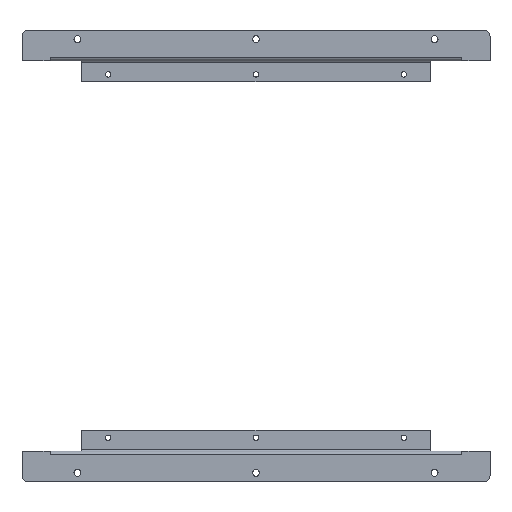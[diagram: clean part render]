
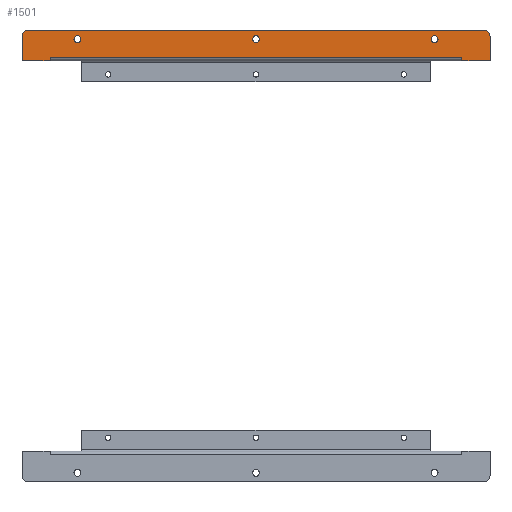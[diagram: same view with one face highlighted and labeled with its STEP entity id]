
A CAD part, top view. The second image highlights one B-rep face of the part: STEP entity #1501.
In plain terms, the highlighted planar face has unit normal (0, 0, 1).
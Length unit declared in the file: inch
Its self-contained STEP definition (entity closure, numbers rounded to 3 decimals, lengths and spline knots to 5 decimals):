
#15=CARTESIAN_POINT('',(9.485,-0.61,0.));
#16=DIRECTION('',(0.,0.,1.));
#17=DIRECTION('',(0.,-1.,0.));
#18=AXIS2_PLACEMENT_3D('',#15,#16,#17);
#24=DIRECTION('',(1.,0.,0.));
#25=VECTOR('',#24,1.13);
#26=CARTESIAN_POINT('',(8.355,-0.625,0.));
#27=LINE('',#26,#25);
#31=CARTESIAN_POINT('',(8.355,-0.61,0.));
#32=DIRECTION('',(0.,0.,1.));
#33=DIRECTION('',(-1.,0.,0.));
#34=AXIS2_PLACEMENT_3D('',#31,#32,#33);
#39=DIRECTION('',(0.,1.,0.));
#40=VECTOR('',#39,0.13);
#41=CARTESIAN_POINT('',(8.34,-0.61,0.));
#42=LINE('',#41,#40);
#46=CARTESIAN_POINT('',(8.3325,-0.48,0.));
#47=DIRECTION('',(0.,0.,1.));
#48=DIRECTION('',(1.,0.,0.));
#49=AXIS2_PLACEMENT_3D('',#46,#47,#48);
#54=CARTESIAN_POINT('',(-8.3325,-0.48,0.));
#55=DIRECTION('',(0.,0.,1.));
#56=DIRECTION('',(1.,0.,0.));
#57=AXIS2_PLACEMENT_3D('',#54,#55,#56);
#62=DIRECTION('',(0.,1.,0.));
#63=VECTOR('',#62,0.13);
#64=CARTESIAN_POINT('',(-8.34,-0.61,0.));
#65=LINE('',#64,#63);
#69=CARTESIAN_POINT('',(-8.355,-0.61,0.));
#70=DIRECTION('',(0.,0.,1.));
#71=DIRECTION('',(0.,-1.,0.));
#72=AXIS2_PLACEMENT_3D('',#69,#70,#71);
#77=DIRECTION('',(1.,0.,0.));
#78=VECTOR('',#77,1.13);
#79=CARTESIAN_POINT('',(-9.485,-0.625,0.));
#80=LINE('',#79,#78);
#84=CARTESIAN_POINT('',(-9.485,-0.61,0.));
#85=DIRECTION('',(0.,0.,1.));
#86=DIRECTION('',(-1.,0.,0.));
#87=AXIS2_PLACEMENT_3D('',#84,#85,#86);
#92=DIRECTION('',(0.,-1.,0.));
#93=VECTOR('',#92,0.985);
#94=CARTESIAN_POINT('',(-9.5,0.375,0.));
#95=LINE('',#94,#93);
#99=CARTESIAN_POINT('',(-9.25,0.375,0.));
#100=DIRECTION('',(0.,0.,1.));
#101=DIRECTION('',(0.,1.,0.));
#102=AXIS2_PLACEMENT_3D('',#99,#100,#101);
#107=DIRECTION('',(-1.,0.,0.));
#108=VECTOR('',#107,18.5);
#109=CARTESIAN_POINT('',(9.25,0.625,0.));
#110=LINE('',#109,#108);
#114=CARTESIAN_POINT('',(9.25,0.375,0.));
#115=DIRECTION('',(0.,0.,1.));
#116=DIRECTION('',(1.,0.,0.));
#117=AXIS2_PLACEMENT_3D('',#114,#115,#116);
#122=DIRECTION('',(0.,1.,0.));
#123=VECTOR('',#122,0.985);
#124=CARTESIAN_POINT('',(9.5,-0.61,0.));
#125=LINE('',#124,#123);
#129=CARTESIAN_POINT('',(-7.25,0.25,0.));
#130=DIRECTION('',(0.,0.,1.));
#131=DIRECTION('',(-1.,0.,0.));
#132=AXIS2_PLACEMENT_3D('',#129,#130,#131);
#137=CARTESIAN_POINT('',(-7.25,0.25,0.));
#138=DIRECTION('',(0.,0.,1.));
#139=DIRECTION('',(1.,0.,0.));
#140=AXIS2_PLACEMENT_3D('',#137,#138,#139);
#145=CARTESIAN_POINT('',(7.25,0.25,0.));
#146=DIRECTION('',(0.,0.,1.));
#147=DIRECTION('',(-1.,0.,0.));
#148=AXIS2_PLACEMENT_3D('',#145,#146,#147);
#153=CARTESIAN_POINT('',(7.25,0.25,0.));
#154=DIRECTION('',(0.,0.,1.));
#155=DIRECTION('',(1.,0.,0.));
#156=AXIS2_PLACEMENT_3D('',#153,#154,#155);
#161=CARTESIAN_POINT('',(0.,0.25,0.));
#162=DIRECTION('',(0.,0.,1.));
#163=DIRECTION('',(-1.,0.,0.));
#164=AXIS2_PLACEMENT_3D('',#161,#162,#163);
#169=CARTESIAN_POINT('',(0.,0.25,0.));
#170=DIRECTION('',(0.,0.,1.));
#171=DIRECTION('',(1.,0.,0.));
#172=AXIS2_PLACEMENT_3D('',#169,#170,#171);
#452=DIRECTION('',(1.,0.,0.));
#453=VECTOR('',#452,16.65);
#454=CARTESIAN_POINT('',(-8.325,-0.48,0.));
#455=LINE('',#454,#453);
#1248=CARTESIAN_POINT('',(-8.325,-0.48,0.));
#1249=CARTESIAN_POINT('',(-8.34,-0.48,0.));
#1250=VERTEX_POINT('',#1248);
#1251=VERTEX_POINT('',#1249);
#1260=CARTESIAN_POINT('',(8.34,-0.48,0.));
#1261=CARTESIAN_POINT('',(8.325,-0.48,0.));
#1262=VERTEX_POINT('',#1260);
#1263=VERTEX_POINT('',#1261);
#1316=CARTESIAN_POINT('',(9.5,0.375,0.));
#1317=CARTESIAN_POINT('',(9.25,0.625,0.));
#1318=VERTEX_POINT('',#1316);
#1319=VERTEX_POINT('',#1317);
#1324=CARTESIAN_POINT('',(-9.25,0.625,0.));
#1325=CARTESIAN_POINT('',(-9.5,0.375,0.));
#1326=VERTEX_POINT('',#1324);
#1327=VERTEX_POINT('',#1325);
#1332=CARTESIAN_POINT('',(-7.3905,0.25,0.));
#1333=CARTESIAN_POINT('',(-7.1095,0.25,0.));
#1334=VERTEX_POINT('',#1332);
#1335=VERTEX_POINT('',#1333);
#1336=CARTESIAN_POINT('',(7.1095,0.25,0.));
#1337=CARTESIAN_POINT('',(7.3905,0.25,0.));
#1338=VERTEX_POINT('',#1336);
#1339=VERTEX_POINT('',#1337);
#1380=CARTESIAN_POINT('',(-0.1405,0.25,0.));
#1381=CARTESIAN_POINT('',(0.1405,0.25,0.));
#1382=VERTEX_POINT('',#1380);
#1383=VERTEX_POINT('',#1381);
#1396=CARTESIAN_POINT('',(9.485,-0.625,0.));
#1397=CARTESIAN_POINT('',(9.5,-0.61,0.));
#1398=VERTEX_POINT('',#1396);
#1399=VERTEX_POINT('',#1397);
#1404=CARTESIAN_POINT('',(-9.5,-0.61,0.));
#1405=CARTESIAN_POINT('',(-9.485,-0.625,0.));
#1406=VERTEX_POINT('',#1404);
#1407=VERTEX_POINT('',#1405);
#1412=CARTESIAN_POINT('',(-8.355,-0.625,0.));
#1413=CARTESIAN_POINT('',(-8.34,-0.61,0.));
#1414=VERTEX_POINT('',#1412);
#1415=VERTEX_POINT('',#1413);
#1432=CARTESIAN_POINT('',(8.34,-0.61,0.));
#1433=VERTEX_POINT('',#1432);
#1434=CARTESIAN_POINT('',(8.355,-0.625,0.));
#1435=VERTEX_POINT('',#1434);
#1444=CARTESIAN_POINT('',(0.,0.,0.));
#1445=DIRECTION('',(0.,0.,1.));
#1446=DIRECTION('',(1.,0.,0.));
#1447=AXIS2_PLACEMENT_3D('',#1444,#1445,#1446);
#1448=PLANE('',#1447);
#1450=ORIENTED_EDGE('',*,*,#1449,.F.);
#1452=ORIENTED_EDGE('',*,*,#1451,.F.);
#1454=ORIENTED_EDGE('',*,*,#1453,.F.);
#1456=ORIENTED_EDGE('',*,*,#1455,.T.);
#1458=ORIENTED_EDGE('',*,*,#1457,.T.);
#1460=ORIENTED_EDGE('',*,*,#1459,.F.);
#1462=ORIENTED_EDGE('',*,*,#1461,.T.);
#1464=ORIENTED_EDGE('',*,*,#1463,.F.);
#1466=ORIENTED_EDGE('',*,*,#1465,.F.);
#1468=ORIENTED_EDGE('',*,*,#1467,.F.);
#1470=ORIENTED_EDGE('',*,*,#1469,.F.);
#1472=ORIENTED_EDGE('',*,*,#1471,.F.);
#1474=ORIENTED_EDGE('',*,*,#1473,.F.);
#1476=ORIENTED_EDGE('',*,*,#1475,.F.);
#1478=ORIENTED_EDGE('',*,*,#1477,.F.);
#1480=ORIENTED_EDGE('',*,*,#1479,.F.);
#1481=EDGE_LOOP('',(#1450,#1452,#1454,#1456,#1458,#1460,#1462,#1464,#1466,#1468,
#1470,#1472,#1474,#1476,#1478,#1480));
#1482=FACE_OUTER_BOUND('',#1481,.F.);
#1484=ORIENTED_EDGE('',*,*,#1483,.T.);
#1486=ORIENTED_EDGE('',*,*,#1485,.T.);
#1487=EDGE_LOOP('',(#1484,#1486));
#1488=FACE_BOUND('',#1487,.F.);
#1490=ORIENTED_EDGE('',*,*,#1489,.T.);
#1492=ORIENTED_EDGE('',*,*,#1491,.T.);
#1493=EDGE_LOOP('',(#1490,#1492));
#1494=FACE_BOUND('',#1493,.F.);
#1496=ORIENTED_EDGE('',*,*,#1495,.T.);
#1498=ORIENTED_EDGE('',*,*,#1497,.T.);
#1499=EDGE_LOOP('',(#1496,#1498));
#1500=FACE_BOUND('',#1499,.F.);
#19=CIRCLE('',#18,0.015);
#35=CIRCLE('',#34,0.015);
#50=CIRCLE('',#49,0.0075);
#58=CIRCLE('',#57,0.0075);
#73=CIRCLE('',#72,0.015);
#88=CIRCLE('',#87,0.015);
#103=CIRCLE('',#102,0.25);
#118=CIRCLE('',#117,0.25);
#133=CIRCLE('',#132,0.1405);
#141=CIRCLE('',#140,0.1405);
#149=CIRCLE('',#148,0.1405);
#157=CIRCLE('',#156,0.1405);
#165=CIRCLE('',#164,0.1405);
#173=CIRCLE('',#172,0.1405);
#1449=EDGE_CURVE('',#1398,#1399,#19,.T.);
#1451=EDGE_CURVE('',#1435,#1398,#27,.T.);
#1453=EDGE_CURVE('',#1433,#1435,#35,.T.);
#1455=EDGE_CURVE('',#1433,#1262,#42,.T.);
#1457=EDGE_CURVE('',#1262,#1263,#50,.T.);
#1459=EDGE_CURVE('',#1250,#1263,#455,.T.);
#1461=EDGE_CURVE('',#1250,#1251,#58,.T.);
#1463=EDGE_CURVE('',#1415,#1251,#65,.T.);
#1465=EDGE_CURVE('',#1414,#1415,#73,.T.);
#1467=EDGE_CURVE('',#1407,#1414,#80,.T.);
#1469=EDGE_CURVE('',#1406,#1407,#88,.T.);
#1471=EDGE_CURVE('',#1327,#1406,#95,.T.);
#1473=EDGE_CURVE('',#1326,#1327,#103,.T.);
#1475=EDGE_CURVE('',#1319,#1326,#110,.T.);
#1477=EDGE_CURVE('',#1318,#1319,#118,.T.);
#1479=EDGE_CURVE('',#1399,#1318,#125,.T.);
#1483=EDGE_CURVE('',#1334,#1335,#133,.T.);
#1485=EDGE_CURVE('',#1335,#1334,#141,.T.);
#1489=EDGE_CURVE('',#1338,#1339,#149,.T.);
#1491=EDGE_CURVE('',#1339,#1338,#157,.T.);
#1495=EDGE_CURVE('',#1382,#1383,#165,.T.);
#1497=EDGE_CURVE('',#1383,#1382,#173,.T.);
#1501=ADVANCED_FACE('',(#1482,#1488,#1494,#1500),#1448,.T.);
